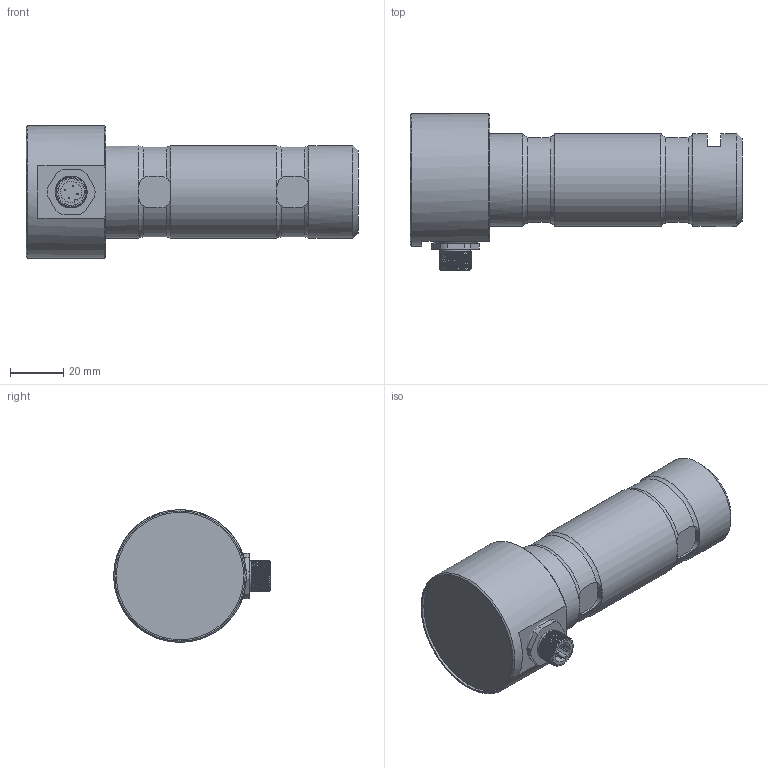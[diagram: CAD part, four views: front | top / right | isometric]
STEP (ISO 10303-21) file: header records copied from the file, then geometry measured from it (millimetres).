
FILE_DESCRIPTION(/* description */ ('Alibre Inc.'),/* implementation_level */ '2;1');
FILE_NAME(/* name */ 'export0',/* time_stamp */ '2015-12-22T09:03:03+01:00',/* author */ (''),/* organization */ (''),/* preprocessor_version */ 'ST-DEVELOPER v14',/* originating_system */ 'Alibre',/* authorisation */ '');
FILE_SCHEMA (('CONFIG_CONTROL_DESIGN'));
Length unit declared in the file: centimetre
Products named in the file (6): ID_1; ID_2; ID_3; ID_4
Bounding box: 125 x 59 x 50 mm (x, y, z)
Volume: 143476.1 mm3; surface area: 23593.2 mm2
Topology: 8 solids, 8 shells, 168 faces, 378 edges, 232 vertices
Faces by surface type: plane 69, cylinder 59, bspline 23, torus 9, cone 8
Full cylindrical faces by diameter (mm): 0.5 x8, 8 x2, 10 x3, 11.5 x1, 13 x1, 14.376 x1, 35 x3, 48 x1, 50 x1
Entity records: 16300 total; most frequent: CARTESIAN_POINT 12687, ORIENTED_EDGE 682, DIRECTION 453, EDGE_CURVE 336, VERTEX_POINT 221, FACE_BOUND 212, EDGE_LOOP 210, AXIS2_PLACEMENT_3D 202
